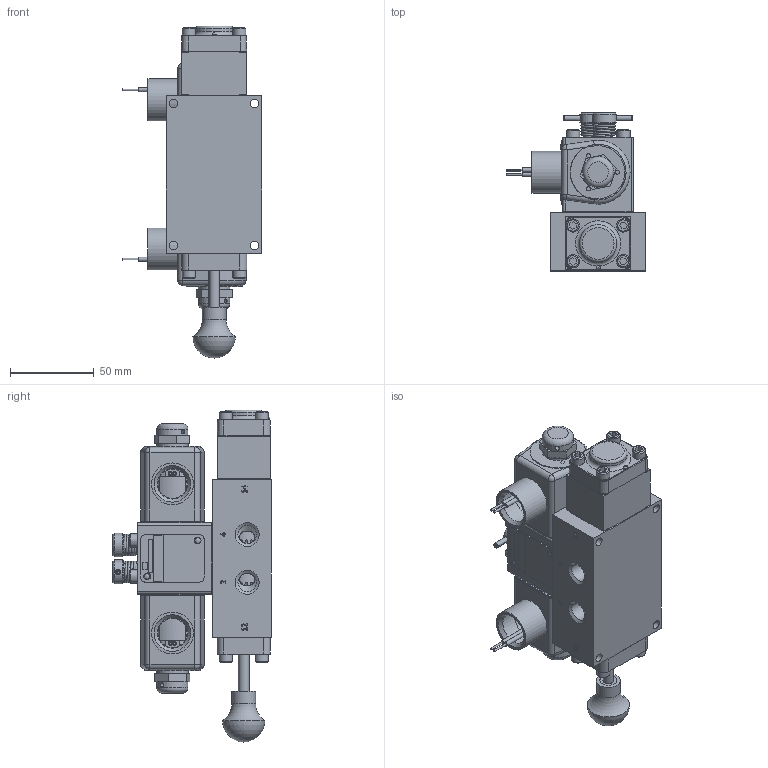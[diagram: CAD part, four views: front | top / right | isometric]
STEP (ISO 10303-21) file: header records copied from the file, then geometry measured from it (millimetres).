
FILE_DESCRIPTION(/* description */ (''),/* implementation_level */ '2;1');
FILE_NAME(/* name */ 'D:\Engineering\Product\valves\Assembly\classic\SS\stp\SS2ONLOSQ.stp',/* time_stamp */ '2023-03-29T16:22:07-04:00',/* author */ ('RMcKenna'),/* organization */ (''),/* preprocessor_version */ 'ST-DEVELOPER v18.1',/* originating_system */ 'Autodesk Inventor 2021',/* authorisation */ '');
FILE_SCHEMA (('AUTOMOTIVE_DESIGN { 1 0 10303 214 3 1 1 }'));
Products named in the file (1): Part17
Bounding box: 83.63 x 94.58 x 198.56 mm (x, y, z)
Volume: 386699.3 mm3; surface area: 143960.7 mm2
Topology: 2 solids, 39 shells, 1880 faces, 4557 edges, 2903 vertices
Faces by surface type: plane 837, cylinder 424, cone 299, bspline 154, torus 154, sphere 12
Full cylindrical faces by diameter (mm): 1.041 x2, 1.168 x4, 1.321 x2, 1.397 x2, 1.727 x6, 2.07 x2, 2.261 x2, 2.35 x2, 2.381 x2, 2.54 x4, 2.778 x2, 3.048 x3, 3.175 x9, 3.302 x2, 3.683 x12, 3.912 x1, 4.366 x9, 4.826 x16, 4.978 x3, 5.105 x4, 5.156 x16, 5.159 x9, 5.537 x7, 5.639 x2, 6.35 x2, 6.629 x4, 7.671 x1, 7.938 x12, 7.95 x1, 9.474 x10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
Entity records: 64686 total; most frequent: CARTESIAN_POINT 19344, ORIENTED_EDGE 9042, DIRECTION 8767, EDGE_CURVE 4521, AXIS2_PLACEMENT_3D 3253, VERTEX_POINT 2903, LINE 2261, VECTOR 2261
